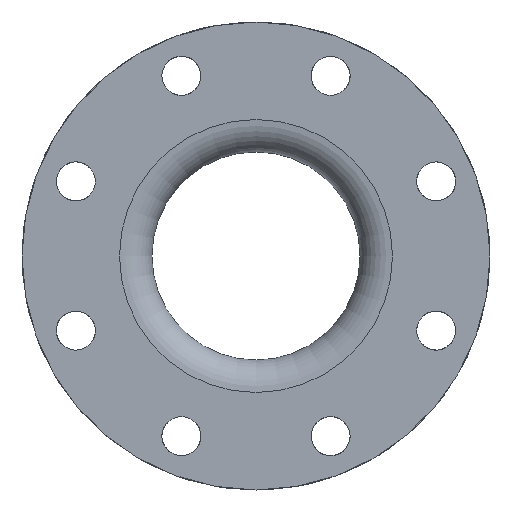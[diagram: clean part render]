
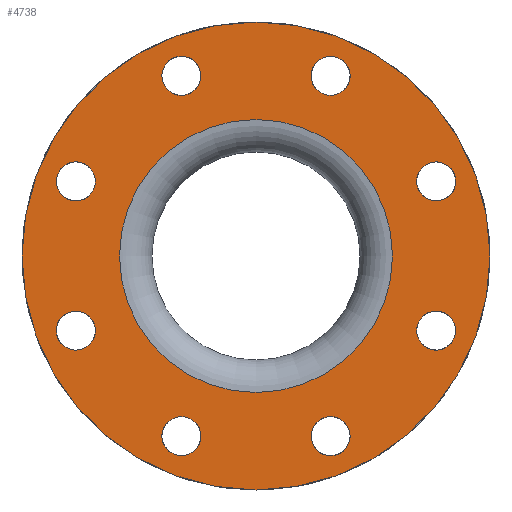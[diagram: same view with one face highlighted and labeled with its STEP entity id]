
A CAD part, front view. The second image highlights one B-rep face of the part: STEP entity #4738.
In plain terms, the highlighted planar face has unit normal (0, -1, 0).
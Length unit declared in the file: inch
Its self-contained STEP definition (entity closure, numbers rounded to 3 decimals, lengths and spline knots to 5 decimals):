
#94=FACE_BOUND('',#682,.T.);
#95=FACE_BOUND('',#683,.T.);
#96=FACE_BOUND('',#684,.T.);
#97=FACE_BOUND('',#685,.T.);
#98=FACE_BOUND('',#686,.T.);
#99=FACE_BOUND('',#687,.T.);
#100=FACE_BOUND('',#688,.T.);
#101=FACE_BOUND('',#689,.T.);
#102=FACE_BOUND('',#690,.T.);
#202=PLANE('',#5217);
#369=FACE_OUTER_BOUND('',#681,.T.);
#681=EDGE_LOOP('',(#3504));
#682=EDGE_LOOP('',(#3505));
#683=EDGE_LOOP('',(#3506));
#684=EDGE_LOOP('',(#3507));
#685=EDGE_LOOP('',(#3508));
#686=EDGE_LOOP('',(#3509));
#687=EDGE_LOOP('',(#3510));
#688=EDGE_LOOP('',(#3511));
#689=EDGE_LOOP('',(#3512));
#690=EDGE_LOOP('',(#3513));
#1543=CIRCLE('',#5190,0.375);
#1545=CIRCLE('',#5193,0.375);
#1547=CIRCLE('',#5196,0.375);
#1549=CIRCLE('',#5199,0.375);
#1551=CIRCLE('',#5202,0.375);
#1553=CIRCLE('',#5205,0.375);
#1555=CIRCLE('',#5208,0.375);
#1557=CIRCLE('',#5211,0.375);
#1560=CIRCLE('',#5216,2.625);
#1561=CIRCLE('',#5218,4.5);
#1977=VERTEX_POINT('',#7861);
#1979=VERTEX_POINT('',#7866);
#1981=VERTEX_POINT('',#7871);
#1983=VERTEX_POINT('',#7876);
#1985=VERTEX_POINT('',#7881);
#1987=VERTEX_POINT('',#7886);
#1989=VERTEX_POINT('',#7891);
#1991=VERTEX_POINT('',#7896);
#1994=VERTEX_POINT('',#7904);
#1995=VERTEX_POINT('',#7907);
#2532=EDGE_CURVE('',#1977,#1977,#1543,.T.);
#2534=EDGE_CURVE('',#1979,#1979,#1545,.T.);
#2536=EDGE_CURVE('',#1981,#1981,#1547,.T.);
#2538=EDGE_CURVE('',#1983,#1983,#1549,.T.);
#2540=EDGE_CURVE('',#1985,#1985,#1551,.T.);
#2542=EDGE_CURVE('',#1987,#1987,#1553,.T.);
#2544=EDGE_CURVE('',#1989,#1989,#1555,.T.);
#2546=EDGE_CURVE('',#1991,#1991,#1557,.T.);
#2549=EDGE_CURVE('',#1994,#1994,#1560,.T.);
#2550=EDGE_CURVE('',#1995,#1995,#1561,.T.);
#3504=ORIENTED_EDGE('',*,*,#2550,.F.);
#3505=ORIENTED_EDGE('',*,*,#2549,.T.);
#3506=ORIENTED_EDGE('',*,*,#2532,.T.);
#3507=ORIENTED_EDGE('',*,*,#2534,.T.);
#3508=ORIENTED_EDGE('',*,*,#2536,.T.);
#3509=ORIENTED_EDGE('',*,*,#2538,.T.);
#3510=ORIENTED_EDGE('',*,*,#2540,.T.);
#3511=ORIENTED_EDGE('',*,*,#2542,.T.);
#3512=ORIENTED_EDGE('',*,*,#2544,.T.);
#3513=ORIENTED_EDGE('',*,*,#2546,.T.);
#4738=ADVANCED_FACE('',(#369,#94,#95,#96,#97,#98,#99,#100,#101,#102),#202,
 .T.);
#5190=AXIS2_PLACEMENT_3D('',#7862,#6296,#6297);
#5193=AXIS2_PLACEMENT_3D('',#7867,#6302,#6303);
#5196=AXIS2_PLACEMENT_3D('',#7872,#6308,#6309);
#5199=AXIS2_PLACEMENT_3D('',#7877,#6314,#6315);
#5202=AXIS2_PLACEMENT_3D('',#7882,#6320,#6321);
#5205=AXIS2_PLACEMENT_3D('',#7887,#6326,#6327);
#5208=AXIS2_PLACEMENT_3D('',#7892,#6332,#6333);
#5211=AXIS2_PLACEMENT_3D('',#7897,#6338,#6339);
#5216=AXIS2_PLACEMENT_3D('',#7905,#6348,#6349);
#5217=AXIS2_PLACEMENT_3D('',#7906,#6350,#6351);
#5218=AXIS2_PLACEMENT_3D('',#7908,#6352,#6353);
#6296=DIRECTION('center_axis',(0.,1.,0.));
#6297=DIRECTION('ref_axis',(0.707,0.,-0.707));
#6302=DIRECTION('center_axis',(0.,1.,0.));
#6303=DIRECTION('ref_axis',(1.,0.,0.));
#6308=DIRECTION('center_axis',(0.,1.,0.));
#6309=DIRECTION('ref_axis',(0.707,0.,0.707));
#6314=DIRECTION('center_axis',(0.,1.,0.));
#6315=DIRECTION('ref_axis',(0.,0.,
1.));
#6320=DIRECTION('center_axis',(0.,1.,0.));
#6321=DIRECTION('ref_axis',(-0.707,0.,0.707));
#6326=DIRECTION('center_axis',(0.,1.,0.));
#6327=DIRECTION('ref_axis',(-1.,0.,0.));
#6332=DIRECTION('center_axis',(0.,1.,0.));
#6333=DIRECTION('ref_axis',(-0.707,0.,-0.707));
#6338=DIRECTION('center_axis',(0.,1.,0.));
#6339=DIRECTION('ref_axis',(0.,0.,-1.));
#6348=DIRECTION('center_axis',(0.,1.,0.));
#6349=DIRECTION('ref_axis',(-1.,0.,0.));
#6350=DIRECTION('center_axis',(0.,-1.,0.));
#6351=DIRECTION('ref_axis',(0.,0.,1.));
#6352=DIRECTION('center_axis',(0.,1.,0.));
#6353=DIRECTION('ref_axis',(-1.,0.,0.));
#7861=CARTESIAN_POINT('',(-1.70023,-6.,-3.19938));
#7862=CARTESIAN_POINT('Origin',(-1.43506,-6.,-3.46455));
#7866=CARTESIAN_POINT('',(1.06006,-6.,-3.46455));
#7867=CARTESIAN_POINT('Origin',(1.43506,-6.,-3.46455));
#7871=CARTESIAN_POINT('',(3.19938,-6.,-1.70023));
#7872=CARTESIAN_POINT('Origin',(3.46455,-6.,-1.43506));
#7876=CARTESIAN_POINT('',(3.46455,-6.,1.06006));
#7877=CARTESIAN_POINT('Origin',(3.46455,-6.,1.43506));
#7881=CARTESIAN_POINT('',(1.70023,-6.,3.19938));
#7882=CARTESIAN_POINT('Origin',(1.43506,-6.,3.46455));
#7886=CARTESIAN_POINT('',(-1.06006,-6.,3.46455));
#7887=CARTESIAN_POINT('Origin',(-1.43506,-6.,3.46455));
#7891=CARTESIAN_POINT('',(-3.19938,-6.,1.70023));
#7892=CARTESIAN_POINT('Origin',(-3.46455,-6.,1.43506));
#7896=CARTESIAN_POINT('',(-3.46455,-6.,-1.06006));
#7897=CARTESIAN_POINT('Origin',(-3.46455,-6.,-1.43506));
#7904=CARTESIAN_POINT('',(-2.625,-6.,0.));
#7905=CARTESIAN_POINT('Origin',(0.,-6.,0.));
#7906=CARTESIAN_POINT('Origin',(-3.5625,-6.,0.));
#7907=CARTESIAN_POINT('',(-4.5,-6.,0.));
#7908=CARTESIAN_POINT('Origin',(0.,-6.,0.));
